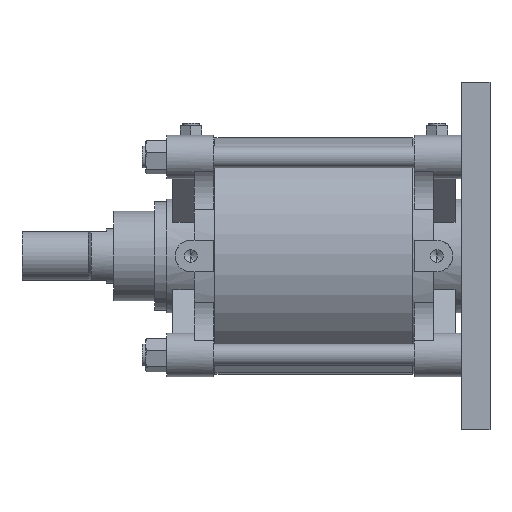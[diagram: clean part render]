
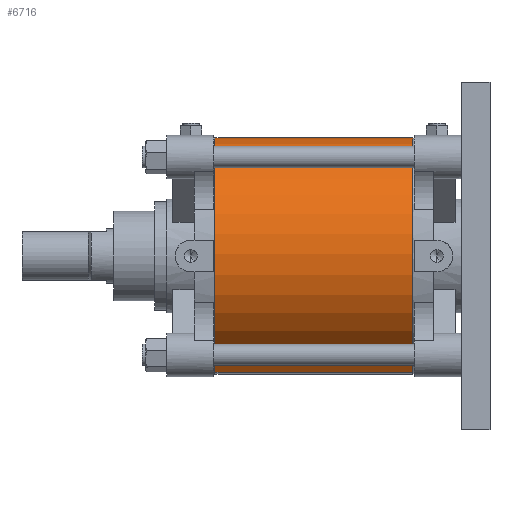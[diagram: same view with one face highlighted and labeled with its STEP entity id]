
A CAD part, front view. The second image highlights one B-rep face of the part: STEP entity #6716.
In plain terms, the highlighted cylindrical face has radius 98 mm (diameter 196 mm), a partial arc.
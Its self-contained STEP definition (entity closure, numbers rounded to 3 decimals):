
#83 = VERTEX_POINT ( 'NONE', #2486 ) ;
#127 = AXIS2_PLACEMENT_3D ( 'NONE', #8268, #720, #4882 ) ;
#447 = ORIENTED_EDGE ( 'NONE', *, *, #7352, .T. ) ;
#719 = CARTESIAN_POINT ( 'NONE',  ( -82., 0., -98. ) ) ;
#720 = DIRECTION ( 'NONE',  ( 1., 0., 0. ) ) ;
#773 = DIRECTION ( 'NONE',  ( -1., 0., 0. ) ) ;
#983 = VERTEX_POINT ( 'NONE', #6425 ) ;
#1282 = CARTESIAN_POINT ( 'NONE',  ( 82., 0., 98. ) ) ;
#1609 = DIRECTION ( 'NONE',  ( 0., 0., 1. ) ) ;
#1768 = DIRECTION ( 'NONE',  ( 1., 0., 0. ) ) ;
#2318 = CIRCLE ( 'NONE', #4486, 98. ) ;
#2471 = ORIENTED_EDGE ( 'NONE', *, *, #8942, .F. ) ;
#2486 = CARTESIAN_POINT ( 'NONE',  ( -82., 0., 98. ) ) ;
#2771 = FACE_OUTER_BOUND ( 'NONE', #8658, .T. ) ;
#4021 = AXIS2_PLACEMENT_3D ( 'NONE', #5261, #773, #1609 ) ;
#4142 = EDGE_CURVE ( 'NONE', #8178, #83, #5098, .T. ) ;
#4157 = DIRECTION ( 'NONE',  ( -1., 0., 0. ) ) ;
#4248 = CIRCLE ( 'NONE', #127, 98. ) ;
#4486 = AXIS2_PLACEMENT_3D ( 'NONE', #9308, #1768, #6450 ) ;
#4507 = VERTEX_POINT ( 'NONE', #719 ) ;
#4701 = VECTOR ( 'NONE', #8135, 1000. ) ;
#4882 = DIRECTION ( 'NONE',  ( 0., 0., -1. ) ) ;
#5098 = LINE ( 'NONE', #7645, #4701 ) ;
#5261 = CARTESIAN_POINT ( 'NONE',  ( 82., 0., 0. ) ) ;
#6265 = CYLINDRICAL_SURFACE ( 'NONE', #4021, 98. ) ;
#6425 = CARTESIAN_POINT ( 'NONE',  ( 82., 0., -98. ) ) ;
#6450 = DIRECTION ( 'NONE',  ( 0., 0., -1. ) ) ;
#6716 = ADVANCED_FACE ( 'NONE', ( #2771 ), #6265, .T. ) ;
#7007 = ORIENTED_EDGE ( 'NONE', *, *, #7846, .F. ) ;
#7204 = VECTOR ( 'NONE', #4157, 1000. ) ;
#7352 = EDGE_CURVE ( 'NONE', #83, #4507, #2318, .T. ) ;
#7645 = CARTESIAN_POINT ( 'NONE',  ( 82., 0., 98. ) ) ;
#7846 = EDGE_CURVE ( 'NONE', #983, #4507, #8054, .T. ) ;
#8054 = LINE ( 'NONE', #9208, #7204 ) ;
#8135 = DIRECTION ( 'NONE',  ( -1., 0., 0. ) ) ;
#8178 = VERTEX_POINT ( 'NONE', #1282 ) ;
#8268 = CARTESIAN_POINT ( 'NONE',  ( 82., 0., 0. ) ) ;
#8658 = EDGE_LOOP ( 'NONE', ( #7007, #2471, #8973, #447 ) ) ;
#8942 = EDGE_CURVE ( 'NONE', #8178, #983, #4248, .T. ) ;
#8973 = ORIENTED_EDGE ( 'NONE', *, *, #4142, .T. ) ;
#9208 = CARTESIAN_POINT ( 'NONE',  ( 82., 0., -98. ) ) ;
#9308 = CARTESIAN_POINT ( 'NONE',  ( -82., 0., 0. ) ) ;
